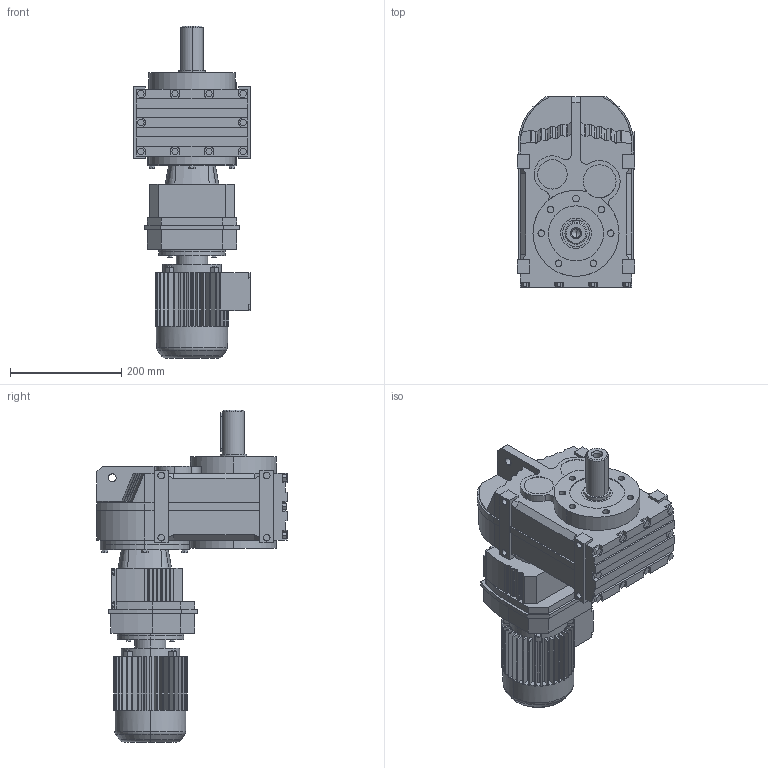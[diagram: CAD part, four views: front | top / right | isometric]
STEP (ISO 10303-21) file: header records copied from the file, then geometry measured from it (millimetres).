
FILE_DESCRIPTION(('Open CASCADE Model'),'2;1');
FILE_NAME('Open CASCADE Shape Model','2021-07-24T10:27:10',('Author'),( 'Open CASCADE'),'Open CASCADE STEP processor 6.3','Open CASCADE 6.3' ,'Unknown');
FILE_SCHEMA(('AUTOMOTIVE_DESIGN_CC2 { 1 2 10303 214 -1 1 5 4 }'));
Length unit declared in the file: millimetre
Products named in the file (5): 1_F67R37DR63; FAZ27‵157_67.step; 萇儂_120-DR63-191-246-132-105.step; R_67_37.step; す瑩妗陑粣F_67.step
Assembly tree (4 placements, depth 2):
  1_F67R37DR63
    FAZ27‵157_67.step
    萇儂_120-DR63-191-246-132-105.step
    R_67_37.step
    す瑩妗陑粣F_67.step
Bounding box: 212 x 343 x 598 mm (x, y, z)
Volume: 13841699.5 mm3; surface area: 745760 mm2
Topology: 4 solids, 4 shells, 1014 faces, 2684 edges, 1754 vertices
Faces by surface type: plane 751, cylinder 227, bspline 16, cone 16, torus 4
Entity records: 68184 total; most frequent: CARTESIAN_POINT 16232, DIRECTION 9168, LINE 5479, VECTOR 5479, ORIENTED_EDGE 5364, PCURVE 5364, DEFINITIONAL_REPRESENTATION 5364, EDGE_CURVE 2682
